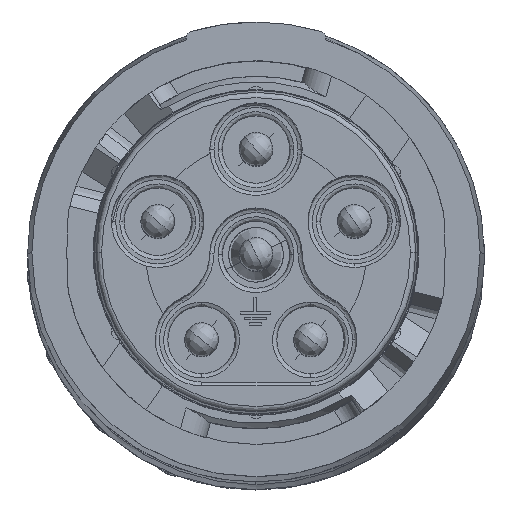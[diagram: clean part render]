
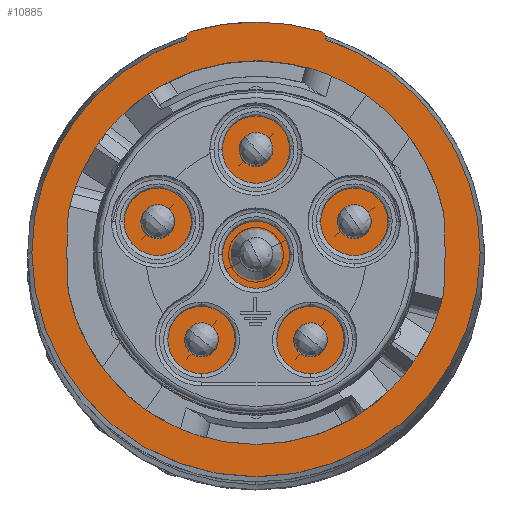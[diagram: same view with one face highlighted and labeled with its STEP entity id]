
A CAD part, top view. The second image highlights one B-rep face of the part: STEP entity #10885.
In plain terms, the highlighted planar face has unit normal (0, 0, 1).
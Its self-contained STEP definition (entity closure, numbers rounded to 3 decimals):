
#36 = AXIS2_PLACEMENT_3D ( 'NONE', #46936, #48333, #32465 ) ;
#328 = CARTESIAN_POINT ( 'NONE',  ( -4.285, 9.515, -14.571 ) ) ;
#1569 = VERTEX_POINT ( 'NONE', #22372 ) ;
#2485 = ORIENTED_EDGE ( 'NONE', *, *, #33746, .F. ) ;
#4536 = EDGE_CURVE ( 'NONE', #64848, #80622, #53789, .T. ) ;
#5149 = EDGE_LOOP ( 'NONE', ( #26559, #2485, #94075, #22963, #69205, #51564, #86011, #80091 ) ) ;
#7521 = CARTESIAN_POINT ( 'NONE',  ( 2.126, 9.114, -14.571 ) ) ;
#8208 = CARTESIAN_POINT ( 'NONE',  ( 2.126, 9.05, -14.571 ) ) ;
#9348 = CARTESIAN_POINT ( 'NONE',  ( -1.199, -1.014, -14.571 ) ) ;
#10004 = LINE ( 'NONE', #90188, #62531 ) ;
#10885 = ADVANCED_FACE ( 'NONE', ( #28934 ), #84770, .F. ) ;
#11989 = EDGE_CURVE ( 'NONE', #22456, #64848, #75563, .T. ) ;
#12599 = AXIS2_PLACEMENT_3D ( 'NONE', #61973, #45339, #30421 ) ;
#13210 = AXIS2_PLACEMENT_3D ( 'NONE', #9348, #83753, #53564 ) ;
#14799 = EDGE_CURVE ( 'NONE', #80622, #32858, #31513, .T. ) ;
#17865 = CARTESIAN_POINT ( 'NONE',  ( -4.524, 9.196, -14.571 ) ) ;
#18541 = DIRECTION ( 'NONE',  ( 0., 0., -1. ) ) ;
#20476 = CARTESIAN_POINT ( 'NONE',  ( -1.199, -1.014, -14.571 ) ) ;
#21970 = VERTEX_POINT ( 'NONE', #17865 ) ;
#22372 = CARTESIAN_POINT ( 'NONE',  ( 1.887, 9.515, -14.571 ) ) ;
#22456 = VERTEX_POINT ( 'NONE', #55607 ) ;
#22963 = ORIENTED_EDGE ( 'NONE', *, *, #31973, .F. ) ;
#24852 = AXIS2_PLACEMENT_3D ( 'NONE', #27262, #28703, #64243 ) ;
#26559 = ORIENTED_EDGE ( 'NONE', *, *, #48876, .F. ) ;
#27262 = CARTESIAN_POINT ( 'NONE',  ( 1.793, 9.196, -14.571 ) ) ;
#27678 = CIRCLE ( 'NONE', #36, 0.332 ) ;
#27974 = EDGE_CURVE ( 'NONE', #22456, #21970, #10004, .T. ) ;
#27983 = VERTEX_POINT ( 'NONE', #77173 ) ;
#28703 = DIRECTION ( 'NONE',  ( 0., 0., -1. ) ) ;
#28934 = FACE_OUTER_BOUND ( 'NONE', #5149, .T. ) ;
#30421 = DIRECTION ( 'NONE',  ( 1., 0., 0. ) ) ;
#31513 = CIRCLE ( 'NONE', #13210, 10.66 ) ;
#31973 = EDGE_CURVE ( 'NONE', #21970, #37599, #27678, .T. ) ;
#32465 = DIRECTION ( 'NONE',  ( 1., 0., 0. ) ) ;
#32858 = VERTEX_POINT ( 'NONE', #7521 ) ;
#33468 = DIRECTION ( 'NONE',  ( 0., 0., 1. ) ) ;
#33746 = EDGE_CURVE ( 'NONE', #1569, #27983, #77021, .T. ) ;
#34034 = CIRCLE ( 'NONE', #12599, 10.973 ) ;
#34146 = AXIS2_PLACEMENT_3D ( 'NONE', #20476, #33468, #92510 ) ;
#35305 = AXIS2_PLACEMENT_3D ( 'NONE', #63089, #43250, #63570 ) ;
#36095 = CARTESIAN_POINT ( 'NONE',  ( -11.859, -1.014, -14.571 ) ) ;
#37599 = VERTEX_POINT ( 'NONE', #328 ) ;
#43250 = DIRECTION ( 'NONE',  ( 0., 0., 1. ) ) ;
#44734 = LINE ( 'NONE', #8208, #94865 ) ;
#45339 = DIRECTION ( 'NONE',  ( 0., 0., 1. ) ) ;
#46936 = CARTESIAN_POINT ( 'NONE',  ( -4.192, 9.196, -14.571 ) ) ;
#47865 = DIRECTION ( 'NONE',  ( 1., 0., 0. ) ) ;
#47927 = DIRECTION ( 'NONE',  ( 0., 1., 0. ) ) ;
#48333 = DIRECTION ( 'NONE',  ( 0., 0., -1. ) ) ;
#48876 = EDGE_CURVE ( 'NONE', #27983, #32858, #44734, .T. ) ;
#50587 = CARTESIAN_POINT ( 'NONE',  ( -11.785, 10.087, -14.571 ) ) ;
#51564 = ORIENTED_EDGE ( 'NONE', *, *, #11989, .T. ) ;
#53564 = DIRECTION ( 'NONE',  ( 1., 0., 0. ) ) ;
#53789 = CIRCLE ( 'NONE', #35305, 10.66 ) ;
#55607 = CARTESIAN_POINT ( 'NONE',  ( -4.524, 9.114, -14.571 ) ) ;
#57495 = EDGE_CURVE ( 'NONE', #1569, #37599, #34034, .T. ) ;
#61973 = CARTESIAN_POINT ( 'NONE',  ( -1.199, -1.014, -14.571 ) ) ;
#62531 = VECTOR ( 'NONE', #47927, 1000. ) ;
#63089 = CARTESIAN_POINT ( 'NONE',  ( -1.199, -1.014, -14.571 ) ) ;
#63570 = DIRECTION ( 'NONE',  ( 1., 0., 0. ) ) ;
#64243 = DIRECTION ( 'NONE',  ( 1., 0., 0. ) ) ;
#64848 = VERTEX_POINT ( 'NONE', #36095 ) ;
#69205 = ORIENTED_EDGE ( 'NONE', *, *, #27974, .F. ) ;
#72520 = CARTESIAN_POINT ( 'NONE',  ( 9.461, -1.014, -14.571 ) ) ;
#73850 = AXIS2_PLACEMENT_3D ( 'NONE', #50587, #18541, #47865 ) ;
#75563 = CIRCLE ( 'NONE', #34146, 10.66 ) ;
#77021 = CIRCLE ( 'NONE', #24852, 0.332 ) ;
#77173 = CARTESIAN_POINT ( 'NONE',  ( 2.126, 9.196, -14.571 ) ) ;
#80091 = ORIENTED_EDGE ( 'NONE', *, *, #14799, .T. ) ;
#80622 = VERTEX_POINT ( 'NONE', #72520 ) ;
#83753 = DIRECTION ( 'NONE',  ( 0., 0., 1. ) ) ;
#84770 = PLANE ( 'NONE',  #73850 ) ;
#86011 = ORIENTED_EDGE ( 'NONE', *, *, #4536, .T. ) ;
#88887 = DIRECTION ( 'NONE',  ( 0., -1., 0. ) ) ;
#90188 = CARTESIAN_POINT ( 'NONE',  ( -4.524, 9.05, -14.571 ) ) ;
#92510 = DIRECTION ( 'NONE',  ( 1., 0., 0. ) ) ;
#94075 = ORIENTED_EDGE ( 'NONE', *, *, #57495, .T. ) ;
#94865 = VECTOR ( 'NONE', #88887, 1000. ) ;
